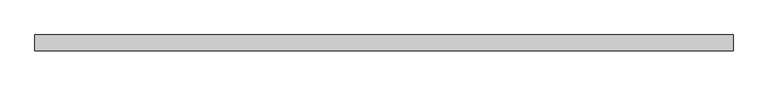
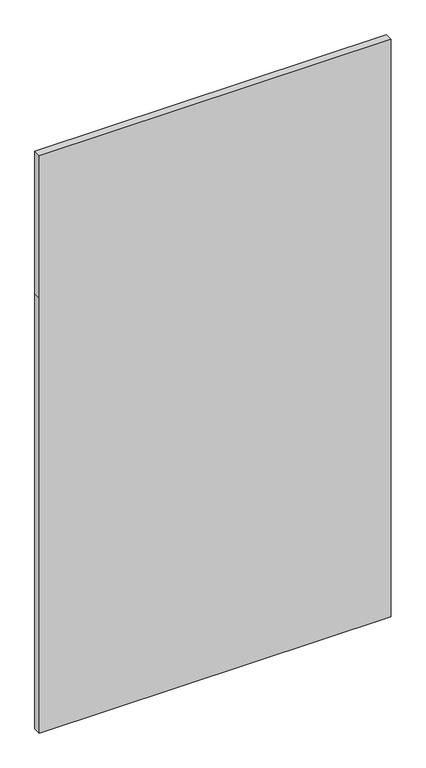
"""IFC4 building model written with IfcOpenShell, lengths in millimetres: plate geometry, Системная панель : С остеклением."""

import ifcopenshell
import ifcopenshell.guid

model = None  # the IFC model being written
_history = None  # IfcOwnerHistory: only IFC2X3 demands one
_inside = {}  # id of a spatial element -> (the spatial element, [elements in it])
_under = {}  # id of a project, library or spatial element -> (it, [spatial elements below it])
_declared = {}  # id of a project -> (the project, [libraries it declares])
_typed = {}  # id of a type object -> (the type object, [elements of that type])
_made_of = {}  # id of a material, layer set ... -> (it, [elements and type objects made of it])


def new_model(schema):
    """Start an empty IFC model of exactly this schema.

    Asked for "IFC4X3", IfcOpenShell would pick the latest addendum, in which some entities
    have other attributes; the version numbers below select the first issue.
    IFC2X3 requires an IfcOwnerHistory on every rooted entity: one is made here for all.
    """
    global model, _history
    if schema == "IFC4X3":
        model = ifcopenshell.file(schema_version=(4, 3, 0, 0))
    else:
        model = ifcopenshell.file(schema=schema)
    _inside.clear()
    _under.clear()
    _declared.clear()
    _typed.clear()
    _made_of.clear()
    _history = None
    if model.schema == "IFC2X3":
        org = make("IfcOrganization", Name="unknown")
        user = make(
            "IfcPersonAndOrganization",
            ThePerson=make("IfcPerson", FamilyName="unknown"),
            TheOrganization=org,
        )
        app = make(
            "IfcApplication",
            ApplicationDeveloper=org,
            Version="unknown",
            ApplicationFullName="unknown",
            ApplicationIdentifier="unknown",
        )
        _history = make(
            "IfcOwnerHistory",
            OwningUser=user,
            OwningApplication=app,
            ChangeAction="ADDED",
            CreationDate=0,
        )
    return model


def make(cls, **values):
    """One entity of the class cls with the attributes given. An attribute that is None is left unset."""
    return model.create_entity(
        cls, **{name: value for name, value in values.items() if value is not None}
    )


def rooted(cls, **values):
    """An entity with a GlobalId (a new one), such as an element, a storey or a relation."""
    return make(cls, GlobalId=ifcopenshell.guid.new(), OwnerHistory=_history, **values)


def si_unit(unit_type, name, prefix=None):
    """IfcSIUnit, for example si_unit("LENGTHUNIT", "METRE", prefix="MILLI")."""
    return make("IfcSIUnit", UnitType=unit_type, Prefix=prefix, Name=name)


def assignment(units):
    """IfcUnitAssignment: the units of a project."""
    return None if units is None else make("IfcUnitAssignment", Units=units)


def point(xyz):
    """IfcCartesianPoint."""
    return None if xyz is None else make("IfcCartesianPoint", Coordinates=xyz)


def direction(xyz):
    """IfcDirection."""
    return None if xyz is None else make("IfcDirection", DirectionRatios=xyz)


def frame(location, z_axis=None, x_axis=None):
    """IfcAxis2Placement3D, a coordinate frame: its origin and axes. An axis left out is left unset."""
    return make(
        "IfcAxis2Placement3D",
        Location=point(location),
        Axis=direction(z_axis),
        RefDirection=direction(x_axis),
    )


def origin():
    """The frame at (0, 0, 0) with its axes left unset."""
    return frame((0.0, 0.0, 0.0))


def place(relative_to, where):
    """IfcLocalPlacement: puts the frame where relative to a parent placement (None: the world)."""
    return make(
        "IfcLocalPlacement", PlacementRelTo=relative_to, RelativePlacement=where
    )


def context(
    kind, dimensions, precision=None, world=None, true_north=None, identifier=None
):
    """IfcGeometricRepresentationContext, for example the 3D "Model" context."""
    return make(
        "IfcGeometricRepresentationContext",
        ContextIdentifier=identifier,
        ContextType=kind,
        CoordinateSpaceDimension=dimensions,
        Precision=precision,
        WorldCoordinateSystem=world,
        TrueNorth=true_north,
    )


def project(units=None, contexts=None):
    """IfcProject with its units and contexts."""
    return rooted(
        "IfcProject",
        Name="project",
        RepresentationContexts=contexts,
        UnitsInContext=assignment(units),
    )


def spatial(cls, under=None, at=None, **own):
    """A site, building, storey or space (cls), placed at a placement, below another one or the project."""
    s = rooted(cls, ObjectPlacement=at, **own)
    if under is not None:
        _under.setdefault(under.id(), (under, []))[1].append(s)
    return s


def polyline(points):
    """IfcPolyline through the points."""
    return make("IfcPolyline", Points=[point(p) for p in points])


def outline(outer, holes=None, kind="AREA"):
    """IfcArbitraryClosedProfileDef: a profile drawn as a closed curve; with holes, ...WithVoids."""
    if holes is None:
        return make("IfcArbitraryClosedProfileDef", ProfileType=kind, OuterCurve=outer)
    return make(
        "IfcArbitraryProfileDefWithVoids",
        ProfileType=kind,
        OuterCurve=outer,
        InnerCurves=holes,
    )


def extrude(swept, where, along, depth):
    """IfcExtrudedAreaSolid: the profile swept, set in the frame where, extruded along a direction by depth."""
    return make(
        "IfcExtrudedAreaSolid",
        SweptArea=swept,
        Position=where,
        ExtrudedDirection=direction(along),
        Depth=depth,
    )


def shape(context_of_items, identifier, shape_type, items):
    """IfcShapeRepresentation: the items that make up one representation, for example the "Body"."""
    return make(
        "IfcShapeRepresentation",
        ContextOfItems=context_of_items,
        RepresentationIdentifier=identifier,
        RepresentationType=shape_type,
        Items=items,
    )


def source(mapping_origin, context_of_items, identifier, shape_type, items):
    """IfcRepresentationMap: a shape defined once, which mapped items show again and again."""
    return make(
        "IfcRepresentationMap",
        MappingOrigin=mapping_origin,
        MappedRepresentation=shape(context_of_items, identifier, shape_type, items),
    )


def transform(
    local_origin,
    x_axis=None,
    y_axis=None,
    z_axis=None,
    scale=None,
    scale2=None,
    scale3=None,
    uniform=True,
):
    """IfcCartesianTransformationOperator3D, or its non-uniform kind. x_axis, y_axis, z_axis: its Axis1, 2, 3."""
    if uniform:
        return make(
            "IfcCartesianTransformationOperator3D",
            Axis1=direction(x_axis),
            Axis2=direction(y_axis),
            LocalOrigin=point(local_origin),
            Scale=scale,
            Axis3=direction(z_axis),
        )
    return make(
        "IfcCartesianTransformationOperator3DnonUniform",
        Axis1=direction(x_axis),
        Axis2=direction(y_axis),
        LocalOrigin=point(local_origin),
        Scale=scale,
        Axis3=direction(z_axis),
        Scale2=scale2,
        Scale3=scale3,
    )


def mapped(mapping_source, mapping_target):
    """IfcMappedItem: shows the shape of a source again, moved by a transform."""
    return make(
        "IfcMappedItem", MappingSource=mapping_source, MappingTarget=mapping_target
    )


def made_of(thing, what):
    """Note that an element or type object is made of a material, layer set ...; save() writes the relation."""
    if what is not None:
        _made_of.setdefault(what.id(), (what, []))[1].append(thing)
    return thing


def element(
    cls,
    number,
    at=None,
    inside=None,
    cuts=None,
    type_object=None,
    material=None,
    context=None,
    identifier="Body",
    shape_type=None,
    held_by="IfcProductDefinitionShape",
    body=None,
    shapes=None,
    **own,
):
    """One element of the class cls, such as IfcWall. Its Tag is "e" and its number.

    at: its placement. inside: the storey or other place that contains it. cuts: it is an
    opening in that element (IfcRelVoidsElement). A single representation is given by context,
    identifier, shape_type and body (its items); several are given by shapes. held_by: the class
    of the entity that holds the representations. save() writes the other relations.
    """
    e = rooted(cls, Tag="e%d" % number, ObjectPlacement=at, **own)
    if body is not None:
        shapes = [shape(context, identifier, shape_type, body)]
    if shapes is not None:
        e.Representation = make(held_by, Representations=shapes)
    if inside is not None:
        _inside.setdefault(inside.id(), (inside, []))[1].append(e)
    if cuts is not None:
        rooted(
            "IfcRelVoidsElement", RelatingBuildingElement=cuts, RelatedOpeningElement=e
        )
    if type_object is not None:
        _typed.setdefault(type_object.id(), (type_object, []))[1].append(e)
    return made_of(e, material)


def aggregate(whole, parts):
    """IfcRelAggregates: a whole, such as a stair, and the parts it consists of."""
    return rooted("IfcRelAggregates", RelatingObject=whole, RelatedObjects=parts)


def save(model, path):
    """Write the relations noted so far, then the file.

    IfcRelAggregates (storeys below a building ...), IfcRelContainedInSpatialStructure (elements
    in a storey), IfcRelDefinesByType, IfcRelAssociatesMaterial and IfcRelDeclares: one each for
    every whole, place, type object, material and project.
    """
    for whole, parts in _under.values():
        aggregate(whole, parts)
    for where, things in _inside.values():
        rooted(
            "IfcRelContainedInSpatialStructure",
            RelatedElements=things,
            RelatingStructure=where,
        )
    for kind, things in _typed.values():
        rooted("IfcRelDefinesByType", RelatedObjects=things, RelatingType=kind)
    for what, things in _made_of.values():
        rooted("IfcRelAssociatesMaterial", RelatedObjects=things, RelatingMaterial=what)
    for by, libraries in _declared.values():
        rooted("IfcRelDeclares", RelatingContext=by, RelatedDefinitions=libraries)
    model.write(path)


def plate_4b078617(model_context):
    return source(origin(), model_context, "Body", "SweptSolid", [
        extrude(outline(polyline([(0.0, -555.0), (0.0, 555.0), (1450.0, 555.0), (1925.0, 555.0), (1925.0, -555.0), (1450.0, -555.0), (0.0, -555.0)])), frame((0.0, -49.5, 0.0), z_axis=(0.0, 1.0, 0.0), x_axis=(0.0, 0.0, 1.0)), (0.0, 0.0, 1.0), 25.0),
    ])


if __name__ == "__main__":
    model = new_model("IFC4")
    model_context = context("Model", 3, world=origin())
    ifc_project = project(units=[si_unit("LENGTHUNIT", "METRE", prefix="MILLI")], contexts=[model_context])
    site = spatial("IfcSite", under=ifc_project)
    building = spatial("IfcBuilding", under=site)
    placement = place(None, origin())
    plate_shape = plate_4b078617(model_context)
    element("IfcPlate", 1, ObjectType="Системная панель : С остеклением", at=placement, inside=building, context=model_context, shape_type="MappedRepresentation", body=[
        mapped(plate_shape, transform((0.0, 0.0, 0.0), x_axis=(1.0, 0.0, 0.0), y_axis=(0.0, 1.0, 0.0), z_axis=(0.0, 0.0, 1.0))),
    ])
    save(model, "model.ifc")
